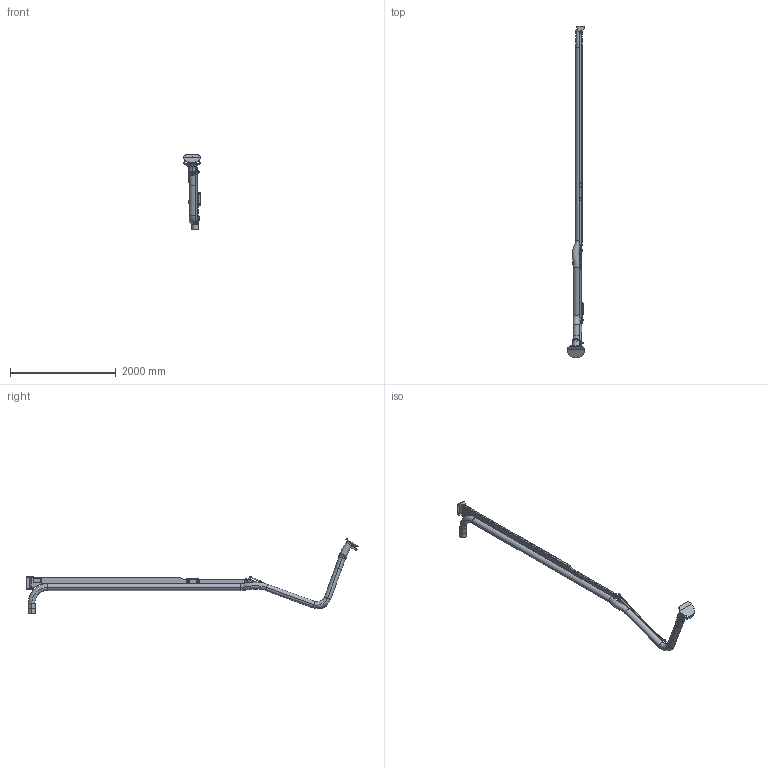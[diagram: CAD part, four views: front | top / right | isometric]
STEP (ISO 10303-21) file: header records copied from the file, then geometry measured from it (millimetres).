
FILE_DESCRIPTION((''),'2;1');
FILE_NAME('PR7000-125','2018-10-01T',('Gustav Stenberg'),(''),'CREO PARAMETRIC BY PTC INC, 2016130','CREO PARAMETRIC BY PTC INC, 2016130','');
FILE_SCHEMA(('AUTOMOTIVE_DESIGN { 1 0 10303 214 1 1 1 1 }'));
Length unit declared in the file: millimetre
Products named in the file (59): 100-6303-02; 100-6301-02; 100-6305-2; 100-6300-03; 100-6303; G_Z_PLATE; 100-6309-1; 100-6309-3; 100-6309; G_PR_TUBE_WALL; 100-6302-02; 100-6302-05; 100-6302-03; 100-6302; 100-6308-01; 100-6308-02; 100-6308-3; 100183; 100-6308; 100066; 102683; 100-5506_L_LIGHT; 100-5506_R_LIGHT; 100-5506; 100-5404-L_LIGHT; 100-5404-R_LIGHT; 100-5404; 100-5914; 100-5913; 100-5915; 135085; 102679; 100-5512-L_LIGHT; 100-512-R_LIGHT; 100-5512; 122219; 102715; 100-5911; 100-5518; 100-6305-1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
Assembly tree (66 placements, depth 5):
  PR7000-125
    100066
      100-6303
        100-6303-02
        100-6301-02
        100-6305-2
        100-6300-03
      100-6309
        G_Z_PLATE  x2
        100-6309-1
        100-6309-3
      100-6302
        G_PR_TUBE_WALL
        100-6302-02  x2
        100-6302-05
        100-6302-03
        100-6305-2
      100-6308
        100183
          100-6308-01
          100-6308-02
          100-6308-3
    134112
      135085
        102683
        100-5506
          100-5506_L_LIGHT
          100-5506_R_LIGHT
        100-5404
          100-5404-L_LIGHT
          100-5404-R_LIGHT
        100-5915  x2
          100-5914
          100-5913
      122219
        102679
        100-5512
          100-5512-L_LIGHT
          100-512-R_LIGHT
      100-5518
        102715
        100-5911
      100-6305
        100-6305-2
        100-6305-1
        100-5911
    100-5721_LIGHT
    100-6341-125
      100-5822_LIGHT
      100-5862A_LIGHT
      100-5865A_LIGHT
      126055_AF2
    130368
      135584
      STAB_K4-D4
    102118-REF
    130371
      135588
      STAB_K4-D4
    102845-REF
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Bounding box: 328.82 x 6269.06 x 1422.97 mm (x, y, z)
Volume: 27855298.9 mm3; surface area: 8339587.5 mm2
Topology: 51 solids, 52 shells, 1243 faces, 2995 edges, 1852 vertices
Faces by surface type: plane 463, cylinder 425, cone 146, bspline 102, torus 77, sphere 26, extrusion 4
Entity records: 60166 total; most frequent: CARTESIAN_POINT 14613, DIRECTION 5603, ORIENTED_EDGE 5216, EDGE_CURVE 2608, PROPERTY_DEFINITION 2548, REPRESENTATION 2509, PROPERTY_DEFINITION_REPRESENTATION 2509, AXIS2_PLACEMENT_3D 2183
